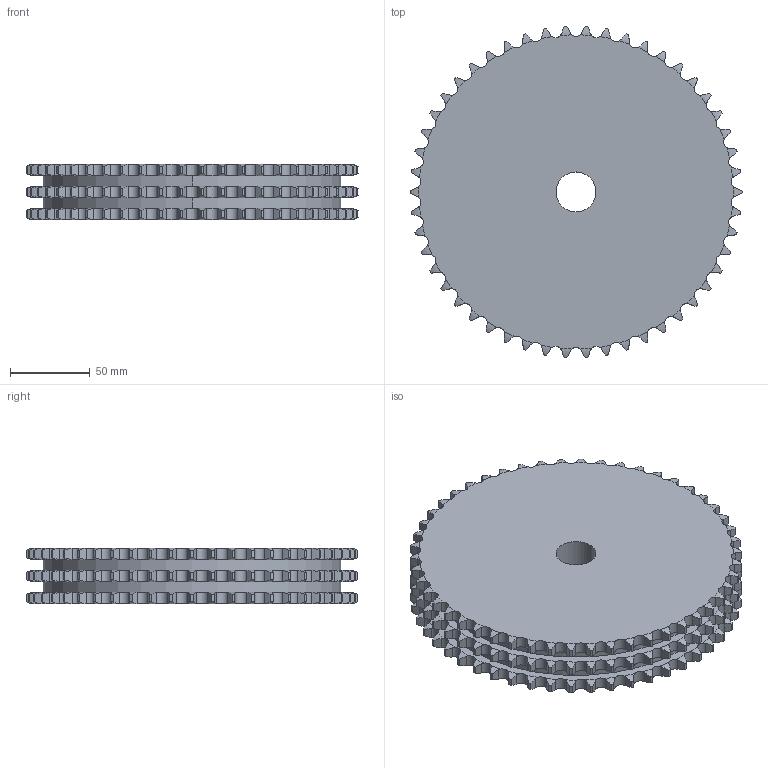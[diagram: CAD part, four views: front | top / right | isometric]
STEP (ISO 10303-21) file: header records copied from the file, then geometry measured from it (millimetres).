
FILE_DESCRIPTION((''),'2;1');
FILE_NAME('500-203-0050_PRT','2021-02-12T',('Brieden'),('Brieden'),'PRO/ENGINEER BY PARAMETRIC TECHNOLOGY CORPORATION, 2010160','PRO/ENGINEER BY PARAMETRIC TECHNOLOGY CORPORATION, 2010160','');
FILE_SCHEMA(('AUTOMOTIVE_DESIGN { 1 0 10303 214 1 1 1 1 }'));
Length unit declared in the file: millimetre
Products named in the file (1): 500-203-0050_PRT
Bounding box: 207.62 x 207.3 x 34.9 mm (x, y, z)
Volume: 1019297.2 mm3; surface area: 107825.8 mm2
Topology: 1 solids, 1 shells, 912 faces, 2718 edges, 1812 vertices
Faces by surface type: cylinder 606, torus 300, plane 6
Entity records: 44424 total; most frequent: CARTESIAN_POINT 13167, ORIENTED_EDGE 5436, DIRECTION 4254, PRESENTATION_STYLE_ASSIGNMENT 2719, STYLED_ITEM 2719, CURVE_STYLE 2718, EDGE_CURVE 2718, AXIS2_PLACEMENT_3D 1824
